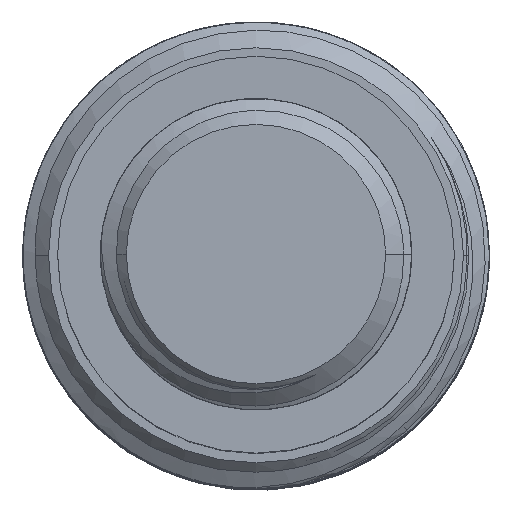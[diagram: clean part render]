
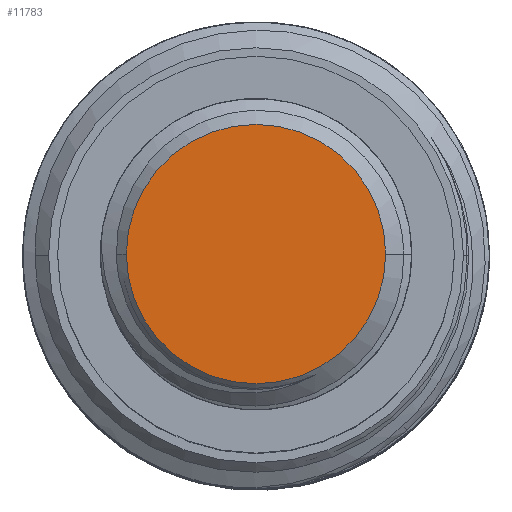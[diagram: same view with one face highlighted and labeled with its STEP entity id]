
A CAD part, top view. The second image highlights one B-rep face of the part: STEP entity #11783.
In plain terms, the highlighted planar face has unit normal (0, 0, 1).
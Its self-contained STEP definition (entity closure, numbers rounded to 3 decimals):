
#5108=CARTESIAN_POINT('',(0.,0.,0.));
#5109=DIRECTION('',(0.,0.,-1.));
#5110=DIRECTION('',(1.,0.,0.));
#5111=AXIS2_PLACEMENT_3D('',#5108,#5109,#5110);
#5113=CARTESIAN_POINT('',(0.,0.,0.));
#5114=DIRECTION('',(0.,0.,-1.));
#5115=DIRECTION('',(0.,-1.,0.));
#5116=AXIS2_PLACEMENT_3D('',#5113,#5114,#5115);
#5118=CARTESIAN_POINT('',(0.,0.,0.));
#5119=DIRECTION('',(0.,0.,-1.));
#5120=DIRECTION('',(-1.,0.,0.));
#5121=AXIS2_PLACEMENT_3D('',#5118,#5119,#5120);
#5123=CARTESIAN_POINT('',(0.,0.,0.));
#5124=DIRECTION('',(0.,0.,-1.));
#5125=DIRECTION('',(0.,1.,0.));
#5126=AXIS2_PLACEMENT_3D('',#5123,#5124,#5125);
#6042=CARTESIAN_POINT('',(5.,0.,0.));
#6043=CARTESIAN_POINT('',(0.,-5.,0.));
#6044=VERTEX_POINT('',#6042);
#6045=VERTEX_POINT('',#6043);
#6046=CARTESIAN_POINT('',(-5.,0.,0.));
#6047=VERTEX_POINT('',#6046);
#6048=CARTESIAN_POINT('',(0.,5.,0.));
#6049=VERTEX_POINT('',#6048);
#11772=CARTESIAN_POINT('',(0.,0.,0.));
#11773=DIRECTION('',(0.,0.,1.));
#11774=DIRECTION('',(-1.,0.,0.));
#11775=AXIS2_PLACEMENT_3D('',#11772,#11773,#11774);
#11776=PLANE('',#11775);
#11777=ORIENTED_EDGE('',*,*,#11621,.T.);
#11778=ORIENTED_EDGE('',*,*,#11619,.T.);
#11779=ORIENTED_EDGE('',*,*,#11766,.T.);
#11780=ORIENTED_EDGE('',*,*,#11764,.T.);
#11781=EDGE_LOOP('',(#11777,#11778,#11779,#11780));
#11782=FACE_OUTER_BOUND('',#11781,.F.);
#5112=CIRCLE('',#5111,5.);
#5117=CIRCLE('',#5116,5.);
#5122=CIRCLE('',#5121,5.);
#5127=CIRCLE('',#5126,5.);
#11619=EDGE_CURVE('',#6045,#6047,#5117,.T.);
#11621=EDGE_CURVE('',#6044,#6045,#5112,.T.);
#11764=EDGE_CURVE('',#6049,#6044,#5127,.T.);
#11766=EDGE_CURVE('',#6047,#6049,#5122,.T.);
#11783=ADVANCED_FACE('',(#11782),#11776,.T.);
